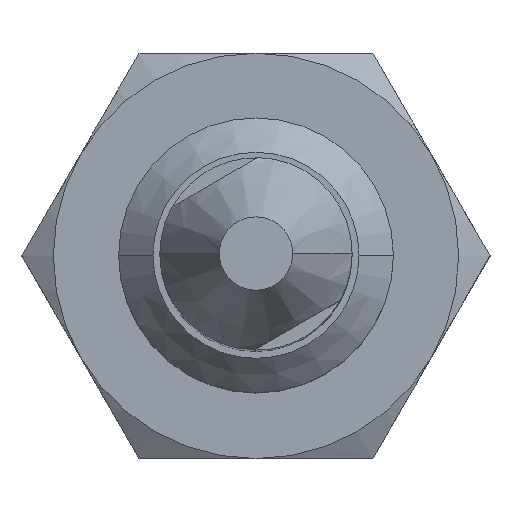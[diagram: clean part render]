
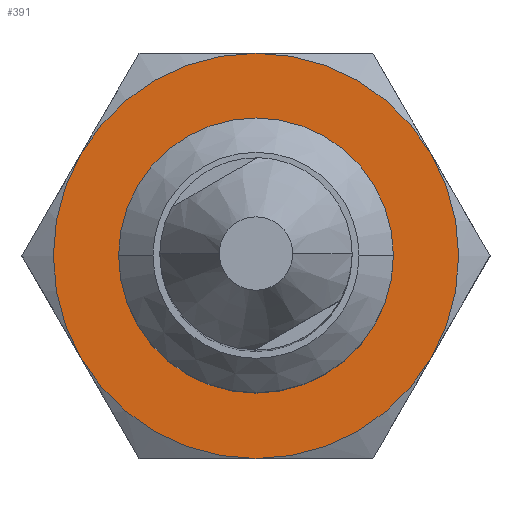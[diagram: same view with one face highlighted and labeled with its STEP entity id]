
A CAD part, top view. The second image highlights one B-rep face of the part: STEP entity #391.
In plain terms, the highlighted planar face has unit normal (0, 0, 1).
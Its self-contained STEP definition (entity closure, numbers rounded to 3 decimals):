
#36=CARTESIAN_POINT('Axis2P3D Location',(0.,0.,1.5)) ;
#40=CARTESIAN_POINT('Vertex',(2.555,-1.475,1.5)) ;
#42=CARTESIAN_POINT('Vertex',(2.555,1.475,1.5)) ;
#67=CARTESIAN_POINT('Axis2P3D Location',(0.,0.,1.5)) ;
#71=CARTESIAN_POINT('Vertex',(-2.555,1.475,1.5)) ;
#73=CARTESIAN_POINT('Vertex',(-2.555,-1.475,1.5)) ;
#98=CARTESIAN_POINT('Axis2P3D Location',(0.,0.,1.5)) ;
#102=CARTESIAN_POINT('Vertex',(0.,2.95,1.5)) ;
#127=CARTESIAN_POINT('Axis2P3D Location',(0.,0.,1.5)) ;
#154=CARTESIAN_POINT('Axis2P3D Location',(0.,0.,1.5)) ;
#158=CARTESIAN_POINT('Vertex',(0.,-2.95,1.5)) ;
#183=CARTESIAN_POINT('Axis2P3D Location',(0.,0.,1.5)) ;
#360=CARTESIAN_POINT('Axis2P3D Location',(0.,0.,1.5)) ;
#373=CARTESIAN_POINT('Axis2P3D Location',(0.,0.,1.5)) ;
#377=CARTESIAN_POINT('Vertex',(0.,-1.65,1.5)) ;
#379=CARTESIAN_POINT('Vertex',(0.,1.65,1.5)) ;
#382=CARTESIAN_POINT('Axis2P3D Location',(0.,0.,1.5)) ;
#37=DIRECTION('Axis2P3D Direction',(0.,0.,-1.)) ;
#68=DIRECTION('Axis2P3D Direction',(0.,0.,-1.)) ;
#99=DIRECTION('Axis2P3D Direction',(0.,0.,-1.)) ;
#128=DIRECTION('Axis2P3D Direction',(0.,0.,-1.)) ;
#155=DIRECTION('Axis2P3D Direction',(0.,0.,-1.)) ;
#184=DIRECTION('Axis2P3D Direction',(0.,0.,-1.)) ;
#361=DIRECTION('Axis2P3D Direction',(0.,0.,1.)) ;
#362=DIRECTION('Axis2P3D XDirection',(1.,0.,0.)) ;
#374=DIRECTION('Axis2P3D Direction',(0.,0.,1.)) ;
#383=DIRECTION('Axis2P3D Direction',(0.,0.,1.)) ;
#38=AXIS2_PLACEMENT_3D('Circle Axis2P3D',#36,#37,$) ;
#69=AXIS2_PLACEMENT_3D('Circle Axis2P3D',#67,#68,$) ;
#100=AXIS2_PLACEMENT_3D('Circle Axis2P3D',#98,#99,$) ;
#129=AXIS2_PLACEMENT_3D('Circle Axis2P3D',#127,#128,$) ;
#156=AXIS2_PLACEMENT_3D('Circle Axis2P3D',#154,#155,$) ;
#185=AXIS2_PLACEMENT_3D('Circle Axis2P3D',#183,#184,$) ;
#363=AXIS2_PLACEMENT_3D('Plane Axis2P3D',#360,#361,#362) ;
#375=AXIS2_PLACEMENT_3D('Circle Axis2P3D',#373,#374,$) ;
#384=AXIS2_PLACEMENT_3D('Circle Axis2P3D',#382,#383,$) ;
#39=CIRCLE('generated circle',#38,2.95) ;
#70=CIRCLE('generated circle',#69,2.95) ;
#101=CIRCLE('generated circle',#100,2.95) ;
#130=CIRCLE('generated circle',#129,2.95) ;
#157=CIRCLE('generated circle',#156,2.95) ;
#186=CIRCLE('generated circle',#185,2.95) ;
#376=CIRCLE('generated circle',#375,1.65) ;
#385=CIRCLE('generated circle',#384,1.65) ;
#364=PLANE('',#363) ;
#390=FACE_BOUND('',#387,.T.) ;
#44=EDGE_CURVE('',#41,#43,#39,.F.) ;
#75=EDGE_CURVE('',#72,#74,#70,.F.) ;
#104=EDGE_CURVE('',#103,#72,#101,.F.) ;
#131=EDGE_CURVE('',#43,#103,#130,.F.) ;
#160=EDGE_CURVE('',#74,#159,#157,.F.) ;
#187=EDGE_CURVE('',#159,#41,#186,.F.) ;
#381=EDGE_CURVE('',#378,#380,#376,.F.) ;
#386=EDGE_CURVE('',#380,#378,#385,.F.) ;
#365=EDGE_LOOP('',(#366,#367,#368,#369,#370,#371)) ;
#387=EDGE_LOOP('',(#388,#389)) ;
#366=ORIENTED_EDGE('',*,*,#104,.T.) ;
#367=ORIENTED_EDGE('',*,*,#75,.T.) ;
#368=ORIENTED_EDGE('',*,*,#160,.T.) ;
#369=ORIENTED_EDGE('',*,*,#187,.T.) ;
#370=ORIENTED_EDGE('',*,*,#44,.T.) ;
#371=ORIENTED_EDGE('',*,*,#131,.T.) ;
#388=ORIENTED_EDGE('',*,*,#381,.T.) ;
#389=ORIENTED_EDGE('',*,*,#386,.T.) ;
#41=VERTEX_POINT('',#40) ;
#43=VERTEX_POINT('',#42) ;
#72=VERTEX_POINT('',#71) ;
#74=VERTEX_POINT('',#73) ;
#103=VERTEX_POINT('',#102) ;
#159=VERTEX_POINT('',#158) ;
#378=VERTEX_POINT('',#377) ;
#380=VERTEX_POINT('',#379) ;
#391=ADVANCED_FACE('Corps principal',(#372,#390),#364,.T.) ;
#372=FACE_OUTER_BOUND('',#365,.T.) ;
